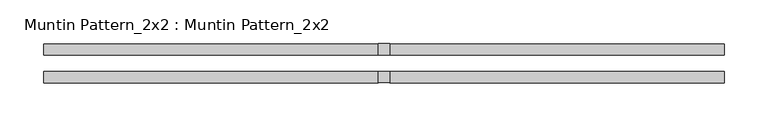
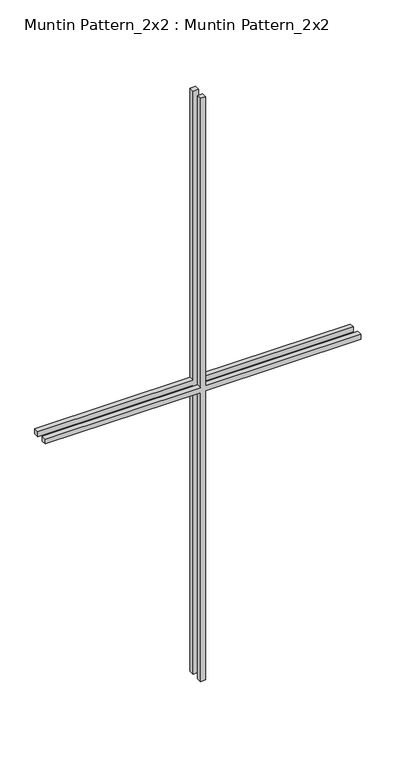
"""IFC4 building model written with IfcOpenShell, lengths in millimetres: proxy geometry, Muntin Pattern_2x2 : Muntin Pattern_2x2."""

from ifc_helpers import new_model, si_unit, frame, origin, place, context, project, spatial, polyline, outline, extrude, source, transform, mapped, element, save


def muntin_pattern_2x2_muntin_pattern_2x2_c0631f4b(model_context):
    return source(origin(), model_context, "Body", "SweptSolid", [
        extrude(outline(polyline([(762.0, -6.35), (762.0, -387.35), (749.3, -387.35), (749.3, -6.35), (0.0, -6.35), (0.0, 6.35), (749.3, 6.35), (749.3, 387.35), (762.0, 387.35), (762.0, 6.35), (1511.3, 6.35), (1511.3, -6.35), (762.0, -6.35)])), frame((0.0, 9.525, 0.0), z_axis=(0.0, 1.0, 0.0), x_axis=(0.0, 0.0, 1.0)), (0.0, 0.0, 1.0), 12.7),
        extrude(outline(polyline([(762.0, -6.35), (762.0, -387.35), (749.3, -387.35), (749.3, -6.35), (0.0, -6.35), (0.0, 6.35), (749.3, 6.35), (749.3, 387.35), (762.0, 387.35), (762.0, 6.35), (1511.3, 6.35), (1511.3, -6.35), (762.0, -6.35)])), frame((0.0, -22.225, 0.0), z_axis=(0.0, 1.0, 0.0), x_axis=(0.0, 0.0, 1.0)), (0.0, 0.0, 1.0), 12.7),
    ])


if __name__ == "__main__":
    model = new_model("IFC4")
    model_context = context("Model", 3, world=origin())
    ifc_project = project(units=[si_unit("LENGTHUNIT", "METRE", prefix="MILLI")], contexts=[model_context])
    site = spatial("IfcSite", under=ifc_project)
    building = spatial("IfcBuilding", under=site)
    placement = place(None, origin())
    muntin_pattern_2x2_muntin_pattern_2x2_shape = muntin_pattern_2x2_muntin_pattern_2x2_c0631f4b(model_context)
    element("IfcBuildingElementProxy", 1, Name="Muntin Pattern_2x2 : Muntin Pattern_2x2", ObjectType="Muntin Pattern_2x2 : Muntin Pattern_2x2", at=placement, inside=building, context=model_context, shape_type="MappedRepresentation", body=[
        mapped(muntin_pattern_2x2_muntin_pattern_2x2_shape, transform((0.0, 0.0, 0.0), x_axis=(1.0, 0.0, 0.0), y_axis=(0.0, 1.0, 0.0), z_axis=(0.0, 0.0, 1.0))),
    ])
    save(model, "model.ifc")
